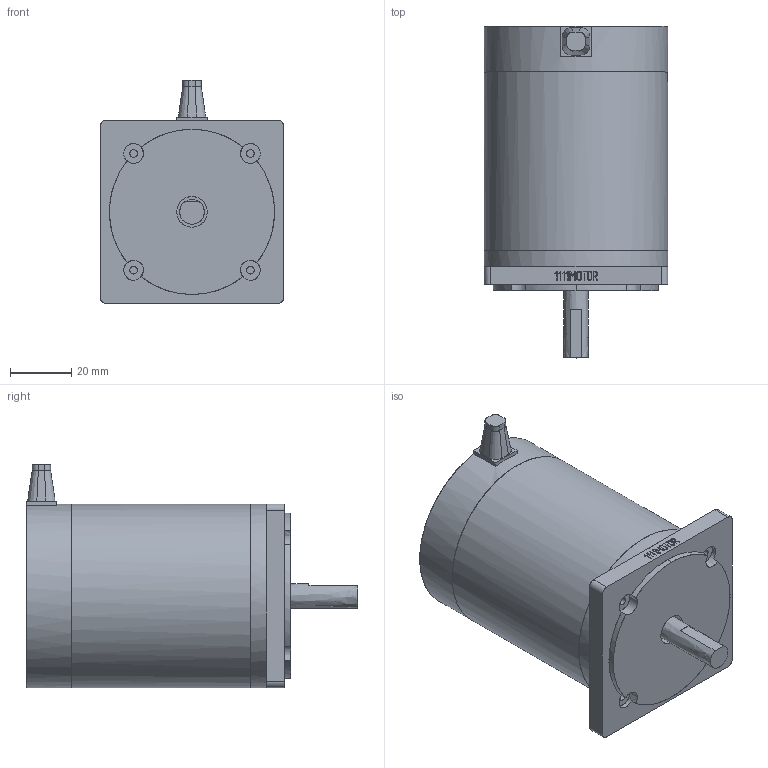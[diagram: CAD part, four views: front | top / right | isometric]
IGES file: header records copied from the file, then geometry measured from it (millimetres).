
Start section: C
Global section: file name: BL60M.igs; native system: By Siemens PLM Incorporated; preprocessor: XPlus GENERIC/IGES 17.0.49; author: Author; organization: Title; date: 20170219.130120; units: millimetre
Bounding box: 60 x 108.5 x 73 mm (x, y, z)
Surface area: 46145.6 mm2 (no closed solid volume)
Topology: 0 solids, 0 shells, 223 faces, 1432 edges, 1432 vertices
Faces by surface type: bspline 223
